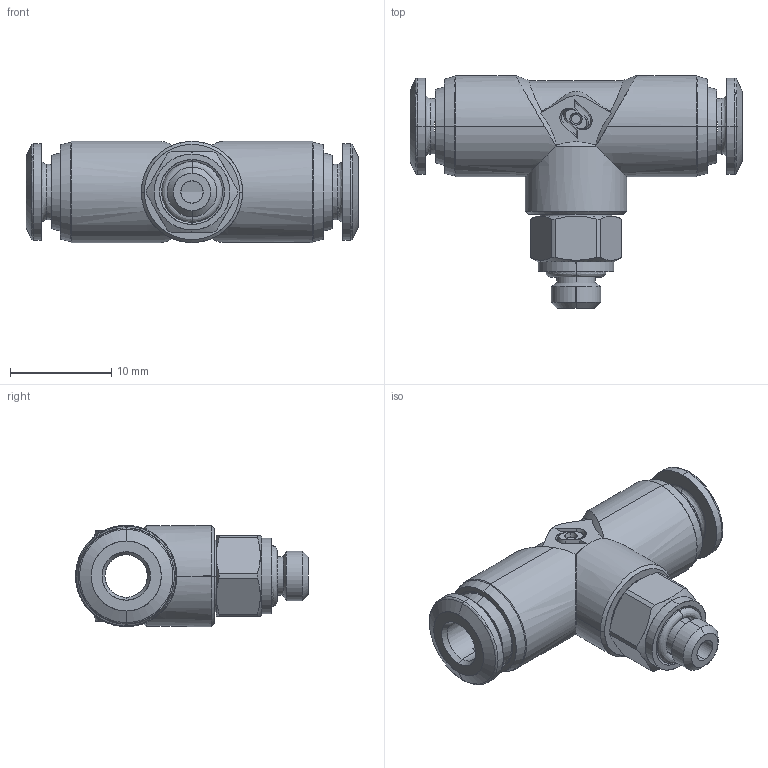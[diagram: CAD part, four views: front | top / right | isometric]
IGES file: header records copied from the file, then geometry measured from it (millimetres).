
Start section: SolidWorks IGES file using analytic representation for surfaces
Global section: file name: C:\Users\cad06\Desktop\Nuova cartella\40216V0002A.IGS; native system: SolidWorks 2016; preprocessor: SolidWorks 2016; author: cad06; date: 160519.092439; units: millimetre
Bounding box: 32.8 x 23 x 10 mm (x, y, z)
Surface area: 2118.5 mm2 (no closed solid volume)
Topology: 0 solids, 0 shells, 172 faces, 2244 edges, 2244 vertices
Faces by surface type: revolution 101, bspline 71
